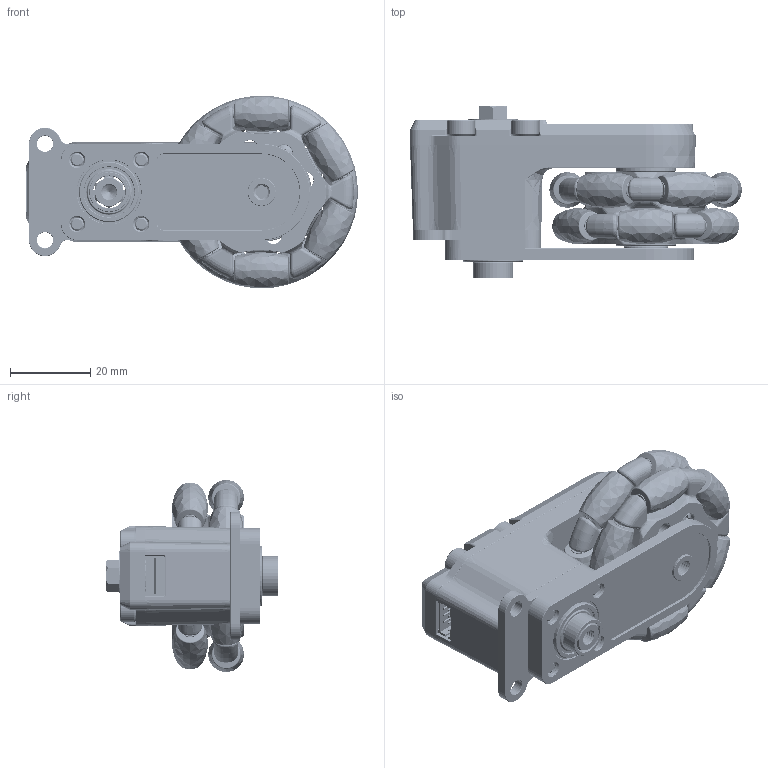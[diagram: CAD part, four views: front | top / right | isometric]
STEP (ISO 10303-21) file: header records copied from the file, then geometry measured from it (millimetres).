
FILE_DESCRIPTION(/* description */ (''),/* implementation_level */ '2;1');
FILE_NAME(/* name */ '3110-0001-0001-V1.1.step',/* time_stamp */ '2024-08-27T16:52:30-05:00',/* author */ (''),/* organization */ (''),/* preprocessor_version */ 'ST-DEVELOPER v20',/* originating_system */ 'Autodesk Translation Framework v13.14.0.145',/* authorisation */ '');
FILE_SCHEMA (('AUTOMOTIVE_DESIGN { 1 0 10303 214 3 1 1 }'));
Products named in the file (49): 3110-0001-0001-PSYCHO; 3110-0001-0001-V1.0 side plate; 3110-0001-0001-V1.1 main body; 3110-0001-0001-V1.1 wheel adap; 1611-0514-0008; 1611-0514-0008_1; 3110-0001-0001-V1.1 Magnet; 3624-4008-0048 Assembly rev1; Core; Side; Rollers; Roller; Roller_1; Roller_2; Roller_3; Roller_4; Roller_5; Rollers_1; Roller_6; Roller_7; Roller_8; Roller_9; Roller_10; Roller_11; Tire; Core (1); Shaft; M2.5 x 1mm x 14mm v4; Odometry Pod V1.1; Board; Packages; Encoder; Encoder v1; JST-PH-4POS-RA; (XX) 4-Pos JST-PH 90° Male Connector v3; MALE_90°; M(90°) - Contact; 3110-0001-0001-V1.1 encoder cvr; 2800-0004-0030; 1611-0514-0008_2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
Assembly tree (97 placements, depth 7):
  3110-0001-0001-PSYCHO
    3110-0001-0001-V1.0 side plate
    3110-0001-0001-V1.1 main body
    3110-0001-0001-V1.1 wheel adap
    1611-0514-0008
      OR
      IR
    1611-0514-0008_1
      OR
      IR
    3110-0001-0001-V1.1 Magnet
    3624-4008-0048 Assembly rev1
      Core
      Side  x2
      Rollers
        Roller
          Tire
          Core (1)
          Shaft
        Roller_1
          Tire
          Core (1)
          Shaft
        Roller_2
          Tire
          Core (1)
          Shaft
        Roller_3
          Tire
          Core (1)
          Shaft
        Roller_4
          Tire
          Core (1)
          Shaft
        Roller_5
          Tire
          Core (1)
          Shaft
      Rollers_1
        Roller_6
          Tire
          Core (1)
          Shaft
        Roller_7
          Tire
          Core (1)
          Shaft
        Roller_8
          Tire
          Core (1)
          Shaft
        Roller_9
          Tire
          Core (1)
          Shaft
        Roller_10
          Tire
          Core (1)
          Shaft
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Bounding box: 82.72 x 43 x 48 mm (x, y, z)
Volume: 46703.8 mm3; surface area: 65356.3 mm2
Topology: 95 solids, 95 shells, 6521 faces, 16426 edges, 10228 vertices
Faces by surface type: cylinder 2550, plane 1618, torus 1198, bspline 712, cone 405, sphere 38
Full cylindrical faces by diameter (mm): 0.2 x46, 0.7 x4, 1 x1, 1.293 x3, 1.517 x3, 1.75 x52, 1.8 x1, 2 x24, 2.2 x4, 2.5 x58, 2.6 x6, 2.7 x1, 3 x1, 3.091 x168, 3.3 x76, 4 x368, 4.5 x9, 5.5 x16, 6 x3, 6.077 x48, 6.989 x24, 7 x6, 8 x6, 8.05 x1, 9.8 x4, 9.85 x4, 9.95 x1, 11 x2, 12.7 x8, 13.1 x8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
Entity records: 199953 total; most frequent: CARTESIAN_POINT 94124, ORIENTED_EDGE 22304, DIRECTION 21775, EDGE_CURVE 11152, AXIS2_PLACEMENT_3D 8669, VERTEX_POINT 6979, EDGE_LOOP 4699, CIRCLE 4473
